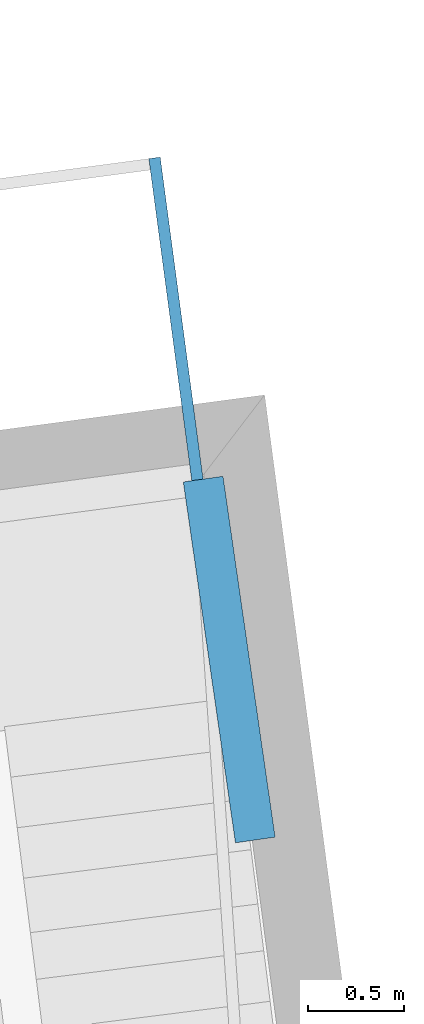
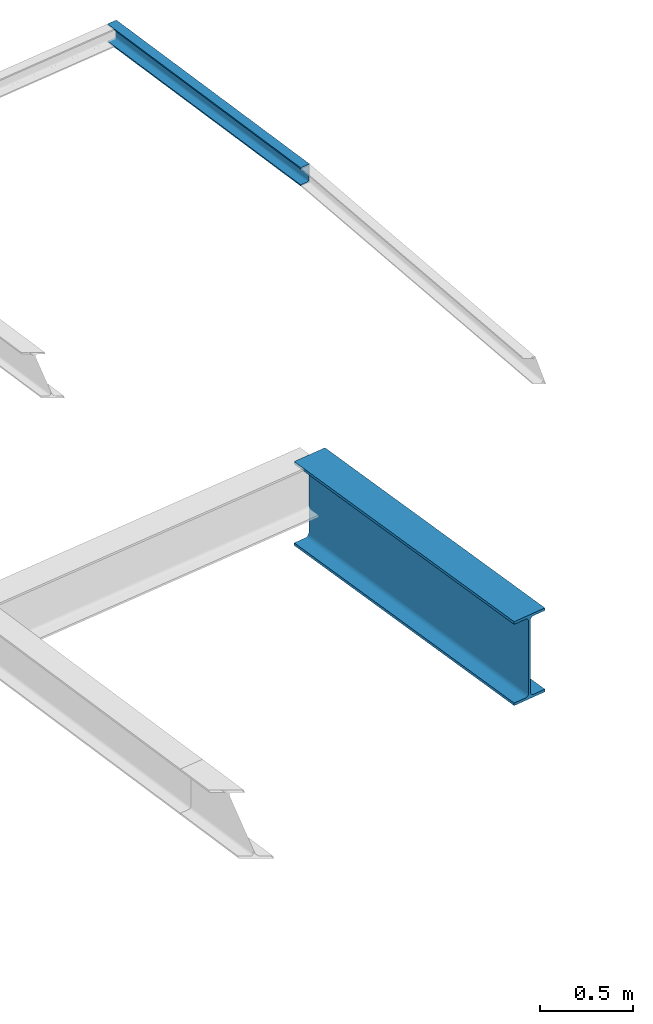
# One storey, part 18 of 40: 2 beams.
"""IFC2X3 building model written with IfcOpenShell, lengths in metres."""

from ifc_helpers import new_model, entity, si_unit, converted_unit, money_unit, point, direction, frame, frame_2d, origin_with_axes, place, context, subcontext, project, spatial, polyline, circle_curve, parameter, trimmed, segment, composite_curve, outline, extrude, material, type_object, element, save


model = new_model("IFC2X3")

# Units and contexts
model_context = context("Model", 3, precision=1e-05, world=origin_with_axes(), true_north=direction((0.0, 1.0)))
body_context = subcontext(model_context, "Body", "Model", "MODEL_VIEW")
ifc_project = project(units=[si_unit("LENGTHUNIT", "METRE"), si_unit("AREAUNIT", "SQUARE_METRE"), si_unit("VOLUMEUNIT", "CUBIC_METRE"), converted_unit("PLANEANGLEUNIT", "DEGREE", entity("IfcPlaneAngleMeasure", 0.0174532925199), si_unit("PLANEANGLEUNIT", "RADIAN"), dimensions=[0, 0, 0, 0, 0, 0, 0]), si_unit("SOLIDANGLEUNIT", "STERADIAN"), money_unit("EUR"), converted_unit("TIMEUNIT", "Year", entity("IfcTimeMeasure", 31556926.0), si_unit("TIMEUNIT", "SECOND"), dimensions=[0, 0, 0, 0, 0, 0, 0]), si_unit("MASSUNIT", "GRAM"), si_unit("THERMODYNAMICTEMPERATUREUNIT", "DEGREE_CELSIUS"), si_unit("LUMINOUSINTENSITYUNIT", "LUMEN")], contexts=[model_context])

# Site, building, storey
site_placement = place(None, origin_with_axes())
site = spatial("IfcSite", under=ifc_project, at=site_placement, Name="Undefined", CompositionType="ELEMENT")
building_placement = place(site_placement, origin_with_axes())
building = spatial("IfcBuilding", under=site, at=building_placement, Name="Undefined", CompositionType="ELEMENT")
storey_placement = place(building_placement, origin_with_axes())
storey = spatial("IfcBuildingStorey", under=building, at=storey_placement, Name="Rez de chauss\x8ee", CompositionType="ELEMENT", Elevation=0.0)

# Beams
ifc_material = material(Name="STEEL/S235JRG2 3386696625")
beam_type_1 = type_object("IfcBeamType", Name="UPE120", PredefinedType="NOTDEFINED")
beam_1_placement = place(storey_placement, frame((66.753987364, 29.1419035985, 19.045), z_axis=(0.0, 0.0, 1.0), x_axis=(-0.991215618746, -0.132255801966, 0.0)))
element("IfcBeam", 1, at=beam_1_placement, inside=storey, type_object=beam_type_1, material=ifc_material, Name="Poutre", ObjectType="BEAM", context=body_context, shape_type="SweptSolid", body=[
    extrude(outline(composite_curve([segment(polyline([(-0.03, -0.06), (0.03, -0.06), (0.03, -0.052), (-0.013, -0.052)]), True, "CONTINUOUS"), segment(trimmed(circle_curve(frame_2d((-0.013, -0.04), x_axis=(-1.0, 0.0)), 0.012), [point((-0.013, -0.052)), parameter(90.0)], [point((-0.025, -0.04)), parameter(0.0)], False, "CARTESIAN"), True, "CONTINUOUS"), segment(polyline([(-0.025, -0.04), (-0.025, 0.04)]), True, "CONTINUOUS"), segment(trimmed(circle_curve(frame_2d((-0.013, 0.04), x_axis=(0.0, 1.0)), 0.012), [point((-0.025, 0.04)), parameter(90.0)], [point((-0.013, 0.052)), parameter(0.0)], False, "CARTESIAN"), True, "CONTINUOUS"), segment(polyline([(-0.013, 0.052), (0.03, 0.052), (0.03, 0.06), (-0.03, 0.06), (-0.03, -0.06)]), True, "CONTINUOUS")], self_intersect=False)), frame((0.0, 1.69999994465, 0.0), z_axis=(0.0, -1.0, 0.0), x_axis=(1.0, 0.0, 0.0)), (0.0, 0.0, 1.0), 1.69999994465),
])
beam_type_2 = type_object("IfcBeamType", Name="IPE550", PredefinedType="NOTDEFINED")
beam_2_placement = place(storey_placement, frame((67.281469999, 25.5719100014, 16.925), z_axis=(0.0, 0.0, 1.0), x_axis=(0.989723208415, 0.14299640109, 0.0)))
element("IfcBeam", 2, at=beam_2_placement, inside=storey, type_object=beam_type_2, material=ifc_material, Name="BEAM", ObjectType="BEAM", context=body_context, shape_type="SweptSolid", body=[
    extrude(outline(composite_curve([segment(polyline([(0.105, -0.275), (0.105, -0.25779999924), (0.02955000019, -0.25779999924)]), True, "CONTINUOUS"), segment(trimmed(circle_curve(frame_2d((0.02955000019, -0.23379999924), x_axis=(-1.0, 0.0)), 0.024), [point((0.02955000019, -0.25779999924)), parameter(90.0)], [point((0.00555000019, -0.23379999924)), parameter(0.0)], False, "CARTESIAN"), True, "CONTINUOUS"), segment(polyline([(0.00555000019, -0.23379999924), (0.00555000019, 0.23379999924)]), True, "CONTINUOUS"), segment(trimmed(circle_curve(frame_2d((0.02955000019, 0.23379999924), x_axis=(0.0, 1.0)), 0.024), [point((0.00555000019, 0.23379999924)), parameter(90.0)], [point((0.02955000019, 0.25779999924)), parameter(0.0)], False, "CARTESIAN"), True, "CONTINUOUS"), segment(polyline([(0.02955000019, 0.25779999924), (0.105, 0.25779999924), (0.105, 0.275), (-0.105, 0.275), (-0.105, 0.25779999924), (-0.02955000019, 0.25779999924)]), True, "CONTINUOUS"), segment(trimmed(circle_curve(frame_2d((-0.02955000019, 0.23379999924), x_axis=(1.0, 0.0)), 0.024), [point((-0.02955000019, 0.25779999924)), parameter(90.0)], [point((-0.00555000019, 0.23379999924)), parameter(0.0)], False, "CARTESIAN"), True, "CONTINUOUS"), segment(polyline([(-0.00555000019, 0.23379999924), (-0.00555000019, -0.23379999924)]), True, "CONTINUOUS"), segment(trimmed(circle_curve(frame_2d((-0.02955000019, -0.23379999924), x_axis=(0.0, -1.0)), 0.024), [point((-0.00555000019, -0.23379999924)), parameter(90.0)], [point((-0.02955000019, -0.25779999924)), parameter(0.0)], False, "CARTESIAN"), True, "CONTINUOUS"), segment(polyline([(-0.02955000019, -0.25779999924), (-0.105, -0.25779999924), (-0.105, -0.275), (0.105, -0.275)]), True, "CONTINUOUS")], self_intersect=False)), frame((0.0, 1.90850834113, 0.0), z_axis=(0.0, -1.0, 0.0), x_axis=(1.0, 0.0, 0.0)), (0.0, 0.0, 1.0), 1.90850834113),
])

save(model, "model.ifc")
